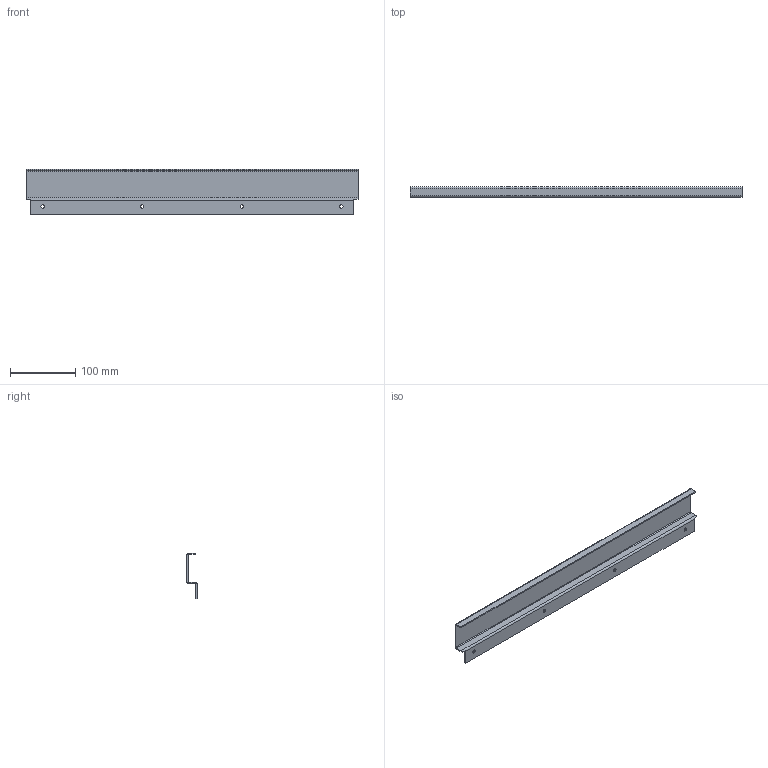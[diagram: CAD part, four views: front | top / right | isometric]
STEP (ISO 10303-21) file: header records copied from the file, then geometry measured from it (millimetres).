
FILE_DESCRIPTION((''),'1');
FILE_NAME('3','2001-04-18T',('jlue'),(''),'PRO/ENGINEER BY PARAMETRIC TECHNOLOGY CORPORATION, 9846','PRO/ENGINEER BY PARAMETRIC TECHNOLOGY CORPORATION, 9846','');
FILE_SCHEMA(('CONFIG_CONTROL_DESIGN'));
Length unit declared in the file: inch
Products named in the file (1): 3
Bounding box: 508 x 15.76 x 69.85 mm (x, y, z)
Surface area: 94997.9 mm2 (no closed solid volume)
Topology: 0 solids, 0 shells, 28 faces, 160 edges, 164 vertices
Faces by surface type: plane 14, cylinder 14
Entity records: 846 total; most frequent: DIRECTION 168, COMPOSITE_CURVE_SEGMENT 156, CARTESIAN_POINT 110, TRIMMED_CURVE 82, AXIS2_PLACEMENT_3D 58, VECTOR 52, LINE 52, CIRCLE 30
